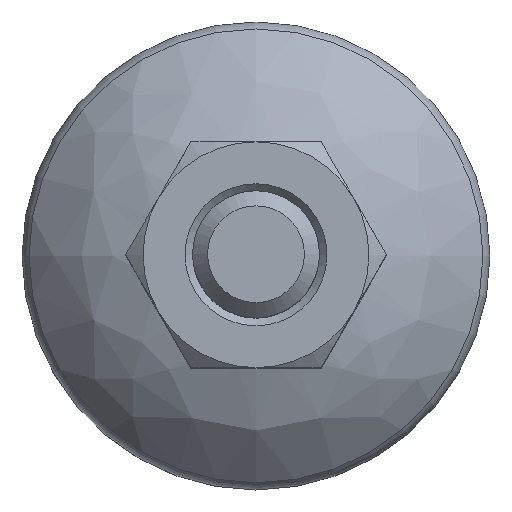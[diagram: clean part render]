
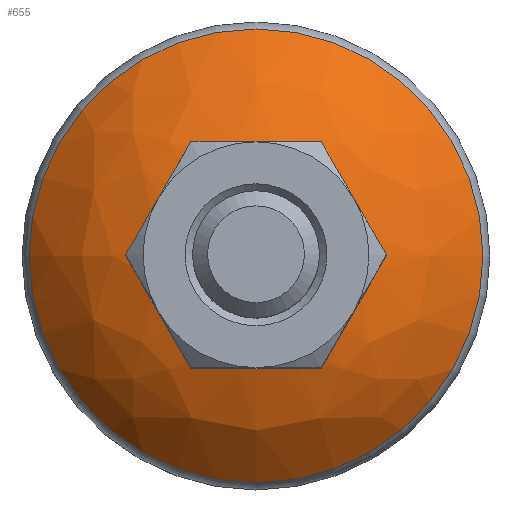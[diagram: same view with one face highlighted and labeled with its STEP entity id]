
A CAD part, top view. The second image highlights one B-rep face of the part: STEP entity #655.
In plain terms, the highlighted free-form (B-spline) face has degree [2, 2] with [3, 9] control points.
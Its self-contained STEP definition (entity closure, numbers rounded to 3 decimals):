
#69=(
BOUNDED_SURFACE()
B_SPLINE_SURFACE(2,2,((#1506,#1507,#1508,#1509,#1510,#1511,#1512,#1513,
#1514),(#1515,#1516,#1517,#1518,#1519,#1520,#1521,#1522,#1523),(#1524,#1525,
#1526,#1527,#1528,#1529,#1530,#1531,#1532)),.UNSPECIFIED.,.F.,.T.,.F.)
B_SPLINE_SURFACE_WITH_KNOTS((3,3),(3,2,2,2,3),(0.673,1.343),
(-3.142,-1.571,0.,1.571,3.142),
 .UNSPECIFIED.)
GEOMETRIC_REPRESENTATION_ITEM()
RATIONAL_B_SPLINE_SURFACE(((1.,0.707,1.,0.707,1.,
0.707,1.,0.707,1.),(0.944,0.668,
0.944,0.668,0.944,0.668,0.944,
0.668,0.944),(1.,0.707,1.,0.707,
1.,0.707,1.,0.707,1.)))
REPRESENTATION_ITEM('')
SURFACE()
);
#160=FACE_OUTER_BOUND('',#205,.T.);
#205=EDGE_LOOP('',(#469,#470,#471,#472,#473));
#251=CIRCLE('',#711,14.064);
#263=CIRCLE('',#726,6.8);
#264=CIRCLE('',#727,6.8);
#265=CIRCLE('',#728,13.061);
#290=VERTEX_POINT('',#997);
#301=VERTEX_POINT('',#1533);
#302=VERTEX_POINT('',#1534);
#351=EDGE_CURVE('',#290,#290,#251,.T.);
#366=EDGE_CURVE('',#301,#302,#263,.T.);
#367=EDGE_CURVE('',#302,#301,#264,.T.);
#368=EDGE_CURVE('',#302,#290,#265,.T.);
#469=ORIENTED_EDGE('',*,*,#366,.F.);
#470=ORIENTED_EDGE('',*,*,#367,.F.);
#471=ORIENTED_EDGE('',*,*,#368,.T.);
#472=ORIENTED_EDGE('',*,*,#351,.T.);
#473=ORIENTED_EDGE('',*,*,#368,.F.);
#655=ADVANCED_FACE('',(#160),#69,.F.);
#711=AXIS2_PLACEMENT_3D('',#998,#797,#798);
#726=AXIS2_PLACEMENT_3D('',#1535,#828,#829);
#727=AXIS2_PLACEMENT_3D('',#1536,#830,#831);
#728=AXIS2_PLACEMENT_3D('',#1537,#832,#833);
#797=DIRECTION('center_axis',(0.,0.,
1.));
#798=DIRECTION('ref_axis',(1.,0.,0.));
#828=DIRECTION('center_axis',(0.,0.,1.));
#829=DIRECTION('ref_axis',(-1.,0.,0.));
#830=DIRECTION('center_axis',(0.,0.,1.));
#831=DIRECTION('ref_axis',(-1.,0.,0.));
#832=DIRECTION('center_axis',(0.,-1.,0.));
#833=DIRECTION('ref_axis',(-1.,0.,0.));
#997=CARTESIAN_POINT('',(-10.023,-7.,-4.621));
#998=CARTESIAN_POINT('Origin',(4.041,-7.,-4.621));
#1506=CARTESIAN_POINT('Ctrl Pts',(-10.023,-7.,-4.621));
#1507=CARTESIAN_POINT('Ctrl Pts',(-10.023,-21.064,-4.621));
#1508=CARTESIAN_POINT('Ctrl Pts',(4.041,-21.064,-4.621));
#1509=CARTESIAN_POINT('Ctrl Pts',(18.105,-21.064,-4.621));
#1510=CARTESIAN_POINT('Ctrl Pts',(18.105,-7.,-4.621));
#1511=CARTESIAN_POINT('Ctrl Pts',(18.105,7.064,-4.621));
#1512=CARTESIAN_POINT('Ctrl Pts',(4.041,7.064,-4.621));
#1513=CARTESIAN_POINT('Ctrl Pts',(-10.023,7.064,-4.621));
#1514=CARTESIAN_POINT('Ctrl Pts',(-10.023,-7.,-4.621));
#1515=CARTESIAN_POINT('Ctrl Pts',(-7.188,-7.,-1.065));
#1516=CARTESIAN_POINT('Ctrl Pts',(-7.188,-18.23,-1.065));
#1517=CARTESIAN_POINT('Ctrl Pts',(4.041,-18.23,-1.065));
#1518=CARTESIAN_POINT('Ctrl Pts',(15.271,-18.23,-1.065));
#1519=CARTESIAN_POINT('Ctrl Pts',(15.271,-7.,-1.065));
#1520=CARTESIAN_POINT('Ctrl Pts',(15.271,4.23,-1.065));
#1521=CARTESIAN_POINT('Ctrl Pts',(4.041,4.23,-1.065));
#1522=CARTESIAN_POINT('Ctrl Pts',(-7.188,4.23,-1.065));
#1523=CARTESIAN_POINT('Ctrl Pts',(-7.188,-7.,-1.065));
#1524=CARTESIAN_POINT('Ctrl Pts',(-2.759,-7.,-0.038));
#1525=CARTESIAN_POINT('Ctrl Pts',(-2.759,-13.8,-0.038));
#1526=CARTESIAN_POINT('Ctrl Pts',(4.041,-13.8,-0.038));
#1527=CARTESIAN_POINT('Ctrl Pts',(10.841,-13.8,-0.038));
#1528=CARTESIAN_POINT('Ctrl Pts',(10.841,-7.,-0.038));
#1529=CARTESIAN_POINT('Ctrl Pts',(10.841,-0.2,-0.038));
#1530=CARTESIAN_POINT('Ctrl Pts',(4.041,-0.2,-0.038));
#1531=CARTESIAN_POINT('Ctrl Pts',(-2.759,-0.2,
-0.038));
#1532=CARTESIAN_POINT('Ctrl Pts',(-2.759,-7.,-0.038));
#1533=CARTESIAN_POINT('',(10.841,-7.,-0.038));
#1534=CARTESIAN_POINT('',(-2.759,-7.,-0.038));
#1535=CARTESIAN_POINT('Origin',(4.041,-7.,-0.038));
#1536=CARTESIAN_POINT('Origin',(4.041,-7.,-0.038));
#1537=CARTESIAN_POINT('Origin',(0.191,-7.,-12.761));
